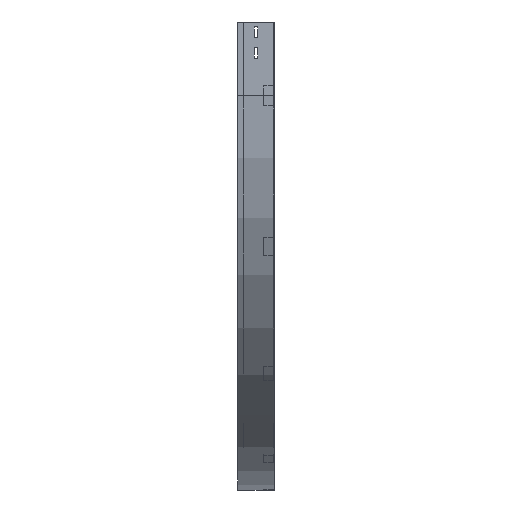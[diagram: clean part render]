
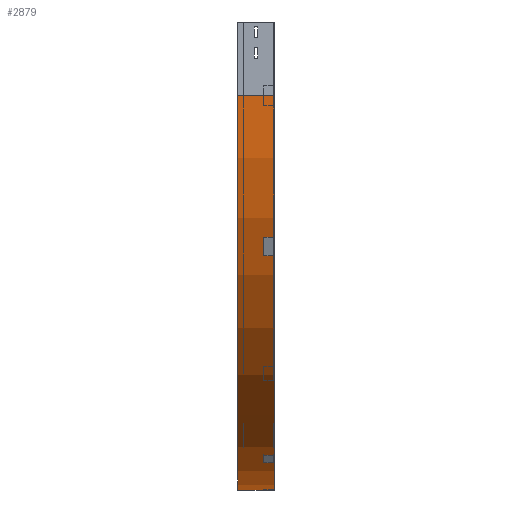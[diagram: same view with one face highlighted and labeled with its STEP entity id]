
A CAD part, left-side view. The second image highlights one B-rep face of the part: STEP entity #2879.
In plain terms, the highlighted cylindrical face has radius 800 mm (diameter 1600 mm), a partial arc.
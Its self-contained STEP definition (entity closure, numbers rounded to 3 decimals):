
#169 = CARTESIAN_POINT ( 'NONE',  ( 800., 75., -150. ) ) ;
#187 = DIRECTION ( 'NONE',  ( 0., 0., -1. ) ) ;
#387 = EDGE_CURVE ( 'NONE', #1456, #2327, #920, .T. ) ;
#513 = CYLINDRICAL_SURFACE ( 'NONE', #515, 800. ) ;
#515 = AXIS2_PLACEMENT_3D ( 'NONE', #803, #1117, #187 ) ;
#573 = DIRECTION ( 'NONE',  ( 0., -1., 0. ) ) ;
#803 = CARTESIAN_POINT ( 'NONE',  ( 800., 0., -150. ) ) ;
#866 = DIRECTION ( 'NONE',  ( 0., -1., 0. ) ) ;
#920 = LINE ( 'NONE', #3561, #2860 ) ;
#1060 = DIRECTION ( 'NONE',  ( 0., -1., 0. ) ) ;
#1117 = DIRECTION ( 'NONE',  ( 0., -1., 0. ) ) ;
#1435 = VERTEX_POINT ( 'NONE', #1496 ) ;
#1456 = VERTEX_POINT ( 'NONE', #3802 ) ;
#1459 = VECTOR ( 'NONE', #573, 1000. ) ;
#1496 = CARTESIAN_POINT ( 'NONE',  ( 800., 0., -950. ) ) ;
#1636 = ORIENTED_EDGE ( 'NONE', *, *, #2929, .F. ) ;
#1684 = AXIS2_PLACEMENT_3D ( 'NONE', #169, #2587, #2038 ) ;
#1855 = VERTEX_POINT ( 'NONE', #3525 ) ;
#2038 = DIRECTION ( 'NONE',  ( -1., 0., 0. ) ) ;
#2081 = LINE ( 'NONE', #3257, #1459 ) ;
#2192 = ORIENTED_EDGE ( 'NONE', *, *, #3226, .T. ) ;
#2327 = VERTEX_POINT ( 'NONE', #3002 ) ;
#2567 = CARTESIAN_POINT ( 'NONE',  ( 800., 0., -150. ) ) ;
#2576 = EDGE_LOOP ( 'NONE', ( #1636, #2767, #3112, #2192 ) ) ;
#2587 = DIRECTION ( 'NONE',  ( 0., -1., 0. ) ) ;
#2767 = ORIENTED_EDGE ( 'NONE', *, *, #387, .F. ) ;
#2859 = EDGE_CURVE ( 'NONE', #1456, #1855, #3560, .T. ) ;
#2860 = VECTOR ( 'NONE', #866, 1000. ) ;
#2879 = ADVANCED_FACE ( 'NONE', ( #3220 ), #513, .T. ) ;
#2929 = EDGE_CURVE ( 'NONE', #2327, #1435, #3456, .T. ) ;
#3002 = CARTESIAN_POINT ( 'NONE',  ( 0., 0., -150. ) ) ;
#3112 = ORIENTED_EDGE ( 'NONE', *, *, #2859, .T. ) ;
#3203 = AXIS2_PLACEMENT_3D ( 'NONE', #2567, #1060, #3749 ) ;
#3220 = FACE_OUTER_BOUND ( 'NONE', #2576, .T. ) ;
#3226 = EDGE_CURVE ( 'NONE', #1855, #1435, #2081, .T. ) ;
#3257 = CARTESIAN_POINT ( 'NONE',  ( 800., 0., -950. ) ) ;
#3456 = CIRCLE ( 'NONE', #3203, 800. ) ;
#3525 = CARTESIAN_POINT ( 'NONE',  ( 800., 75., -950. ) ) ;
#3560 = CIRCLE ( 'NONE', #1684, 800. ) ;
#3561 = CARTESIAN_POINT ( 'NONE',  ( 0., 0., -150. ) ) ;
#3749 = DIRECTION ( 'NONE',  ( -1., 0., 0. ) ) ;
#3802 = CARTESIAN_POINT ( 'NONE',  ( 0., 75., -150. ) ) ;
